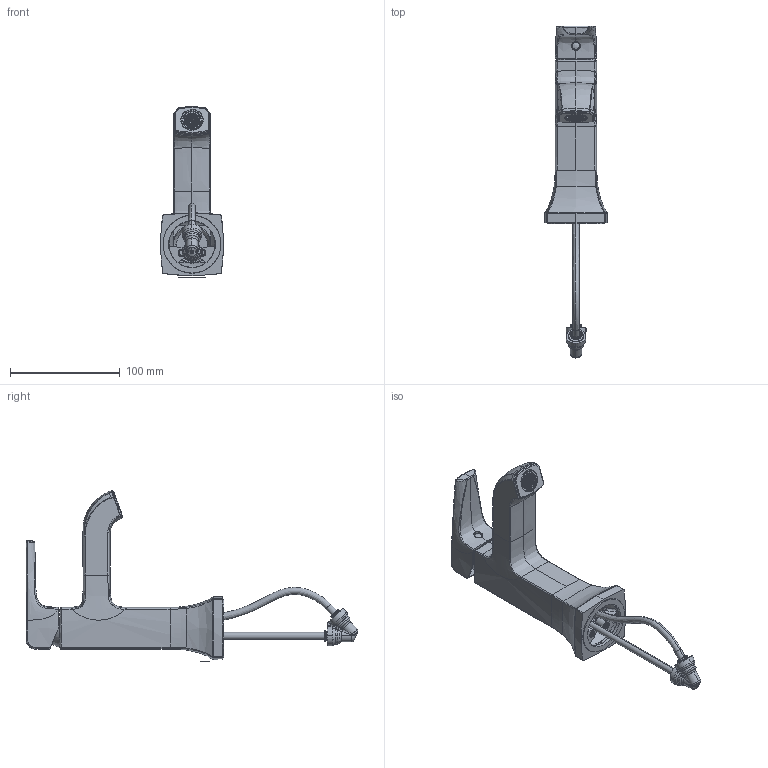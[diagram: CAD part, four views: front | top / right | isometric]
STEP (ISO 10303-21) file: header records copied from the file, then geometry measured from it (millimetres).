
FILE_DESCRIPTION (( 'STEP AP214' ), '1' );
FILE_NAME ('SLS5612.STEP', '2025-01-02T05:23:09', ( '' ), ( '' ), 'SwSTEP 2.0', 'SolidWorks 2023', '' );
FILE_SCHEMA (( 'AUTOMOTIVE_DESIGN' ));
Length unit declared in the file: inch
Products named in the file (1): SLS5612
Bounding box: 57.1 x 301.91 x 155.27 mm (x, y, z)
Surface area: 70831.6 mm2 (no closed solid volume)
Topology: 0 solids, 48 shells, 631 faces, 3640 edges, 2940 vertices
Faces by surface type: plane 251, bspline 215, cylinder 132, cone 31, torus 2
Entity records: 58776 total; most frequent: CARTESIAN_POINT 34942, ORIENTED_EDGE 4718, DIRECTION 3671, EDGE_CURVE 3622, VERTEX_POINT 2940, VECTOR 1967, LINE 1967, B_SPLINE_CURVE_WITH_KNOTS 952
